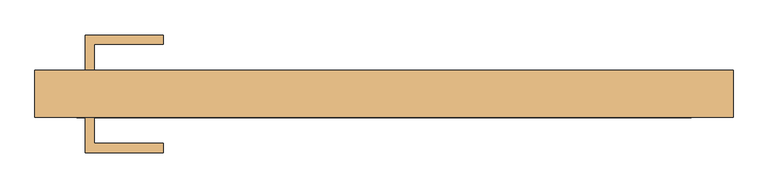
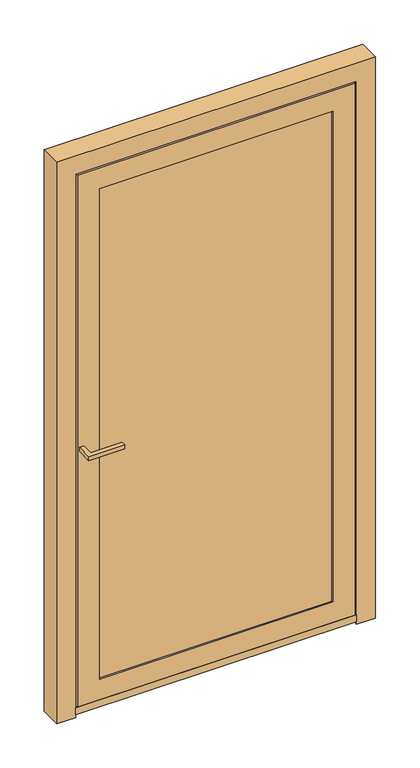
"""IFC4 building model written with IfcOpenShell, lengths in millimetres: door geometry, Reynaers_MasterLine 8_Door_Miter_Inward Opening_Single Vent : Reynaers_MasterLine 8_Door_Miter_Inward Opening_Single Vent."""

from ifc_helpers import new_model, si_unit, frame, origin, place, context, project, spatial, polyline, outline, extrude, faceted_brep, source, transform, mapped, element, save


def door_eac2dd04(model_context):
    return source(origin(), model_context, "Body", "SolidModel", [
        extrude(outline(polyline([(-488.0, -131.2), (-473.0, -131.2), (-473.0, -173.7), (-360.5, -173.7), (-360.5, -188.7), (-488.0, -188.7), (-488.0, -131.2)])), frame((0.0, 0.0, 1000.0), z_axis=(0.0, 0.0, 1.0), x_axis=(1.0, 0.0, 0.0)), (0.0, 0.0, 1.0), 15.0),
        extrude(outline(polyline([(-488.0, -54.2), (-488.0, 3.3), (-360.5, 3.3), (-360.5, -11.7), (-473.0, -11.7), (-473.0, -54.2), (-488.0, -54.2)])), frame((0.0, 0.0, 1000.0), z_axis=(0.0, 0.0, 1.0), x_axis=(1.0, 0.0, 0.0)), (0.0, 0.0, 1.0), 15.0),
        extrude(outline(polyline([(-501.5, -71.2), (501.5, -71.2), (501.5, -91.2), (-501.5, -91.2), (-501.5, -71.2)])), frame((0.0, 0.0, 1.0), z_axis=(0.0, 0.0, 1.0), x_axis=(1.0, 0.0, 0.0)), (0.0, 0.0, 1.0), 25.0),
        extrude(outline(polyline([(-501.5, -127.4), (501.5, -127.4), (501.5, -131.2), (-501.5, -131.2), (-501.5, -127.4)])), frame((0.0, 0.0, 11.0), z_axis=(0.0, 0.0, 1.0), x_axis=(1.0, 0.0, 0.0)), (0.0, 0.0, 1.0), 26.0),
        extrude(outline(polyline([(1994.0, 444.0), (1994.0, -444.0), (88.5, -444.0), (88.5, 444.0), (1994.0, 444.0)]), holes=[polyline([(1969.0, -419.0), (1969.0, 419.0), (113.5, 419.0), (113.5, -419.0), (1969.0, -419.0)])]), frame((0.0, -92.2, 0.0), z_axis=(0.0, 1.0, 0.0), x_axis=(0.0, 0.0, 1.0)), (0.0, 0.0, 1.0), 38.0),
        faceted_brep([(-501.5, -127.4, 0.0), (-501.5, -131.2, 0.0), (-570.0, -131.2, 0.0), (-570.0, -54.2, 0.0), (-527.5, -54.2, 0.0), (-527.5, -63.0, 0.0), (-516.5, -63.0, 0.0), (-516.5, -127.4, 0.0), (-516.5, -127.4, 2066.5), (516.5, -127.4, 2066.5), (516.5, -127.4, 0.0), (501.5, -127.4, 0.0), (501.5, -127.4, 2051.5), (-501.5, -127.4, 2051.5), (-570.0, -131.2, 2120.0), (-570.0, -54.2, 2120.0), (-501.5, -131.2, 2051.5), (501.5, -131.2, 2051.5), (501.5, -131.2, 0.0), (570.0, -131.2, 0.0), (570.0, -131.2, 2120.0), (570.0, -54.2, 2120.0), (516.5, -63.0, 0.0), (527.5, -63.0, 0.0), (527.5, -54.2, 0.0), (570.0, -54.2, 0.0), (-516.5, -63.0, 2066.5), (527.5, -54.2, 2077.5), (-527.5, -54.2, 2077.5), (516.5, -63.0, 2066.5), (-527.5, -63.0, 2077.5), (527.5, -63.0, 2077.5)], [[[0, 1, 2, 3, 4, 5, 6, 7]], [[7, 8, 9, 10, 11, 12, 13, 0]], [[2, 14, 15, 3]], [[1, 16, 17, 18, 19, 20, 14, 2]], [[0, 13, 16, 1]], [[14, 20, 21, 15]], [[13, 12, 17, 16]], [[11, 10, 22, 23, 24, 25, 19, 18]], [[20, 19, 25, 21]], [[12, 11, 18, 17]], [[6, 26, 8, 7]], [[3, 15, 21, 25, 24, 27, 28, 4]], [[26, 29, 9, 8]], [[29, 22, 10, 9]], [[5, 30, 31, 23, 22, 29, 26, 6]], [[4, 28, 30, 5]], [[28, 27, 31, 30]], [[27, 24, 23, 31]]]),
        faceted_brep([(-444.0, -54.2, 1994.0), (444.0, -54.2, 1994.0), (444.0, -127.2, 1994.0), (-444.0, -127.2, 1994.0), (-521.5, -58.0, 2071.5), (521.5, -58.0, 2071.5), (521.5, -54.2, 2071.5), (-521.5, -54.2, 2071.5), (444.0, -54.2, 88.5), (444.0, -127.2, 88.5), (521.5, -58.0, 11.0), (521.5, -54.2, 11.0), (-444.0, -54.2, 88.5), (-444.0, -127.2, 88.5), (-521.5, -58.0, 11.0), (-521.5, -54.2, 11.0), (-506.5, -58.0, 2056.5), (506.5, -58.0, 2056.5), (506.5, -58.0, 26.0), (-506.5, -58.0, 26.0), (-506.5, -122.4, 2056.5), (506.5, -122.4, 2056.5), (-495.5, -131.2, 2045.5), (495.5, -131.2, 2045.5), (495.5, -122.4, 2045.5), (-495.5, -122.4, 2045.5), (-417.0, -127.2, 1967.0), (417.0, -127.2, 1967.0), (417.0, -131.2, 1967.0), (-417.0, -131.2, 1967.0), (506.5, -122.4, 26.0), (495.5, -131.2, 37.0), (495.5, -122.4, 37.0), (417.0, -127.2, 115.5), (417.0, -131.2, 115.5), (-506.5, -122.4, 26.0), (-495.5, -131.2, 37.0), (-495.5, -122.4, 37.0), (-417.0, -127.2, 115.5), (-417.0, -131.2, 115.5)], [[[0, 1, 2, 3]], [[4, 5, 6, 7]], [[1, 8, 9, 2]], [[5, 10, 11, 6]], [[8, 12, 13, 9]], [[10, 14, 15, 11]], [[12, 0, 3, 13]], [[7, 6, 11, 15], [1, 0, 12, 8]], [[14, 4, 7, 15]], [[5, 4, 14, 10], [16, 17, 18, 19]], [[20, 21, 17, 16]], [[22, 23, 24, 25]], [[26, 27, 28, 29]], [[21, 30, 18, 17]], [[23, 31, 32, 24]], [[27, 33, 34, 28]], [[30, 35, 19, 18]], [[31, 36, 37, 32]], [[33, 38, 39, 34]], [[35, 20, 16, 19]], [[21, 20, 35, 30], [25, 24, 32, 37]], [[36, 22, 25, 37]], [[23, 22, 36, 31], [29, 28, 34, 39]], [[38, 26, 29, 39]], [[3, 2, 9, 13], [27, 26, 38, 33]]]),
        extrude(outline(polyline([(436.0, -96.2), (436.0, -123.2), (-436.0, -123.2), (-436.0, -96.2), (436.0, -96.2)])), frame((0.0, 0.0, 96.5), z_axis=(0.0, 0.0, 1.0), x_axis=(1.0, 0.0, 0.0)), (0.0, 0.0, 1.0), 1889.5),
    ])


if __name__ == "__main__":
    model = new_model("IFC4")
    model_context = context("Model", 3, world=origin())
    ifc_project = project(units=[si_unit("LENGTHUNIT", "METRE", prefix="MILLI")], contexts=[model_context])
    site = spatial("IfcSite", under=ifc_project)
    building = spatial("IfcBuilding", under=site)
    placement = place(None, origin())
    door_shape = door_eac2dd04(model_context)
    element("IfcDoor", 1, ObjectType="Reynaers_MasterLine 8_Door_Miter_Inward Opening_Single Vent : Reynaers_MasterLine 8_Door_Miter_Inward Opening_Single Vent", at=placement, inside=building, context=model_context, shape_type="MappedRepresentation", body=[
        mapped(door_shape, transform((0.0, 0.0, 0.0), x_axis=(1.0, 0.0, 0.0), y_axis=(0.0, 1.0, 0.0), z_axis=(0.0, 0.0, 1.0))),
    ])
    save(model, "model.ifc")
